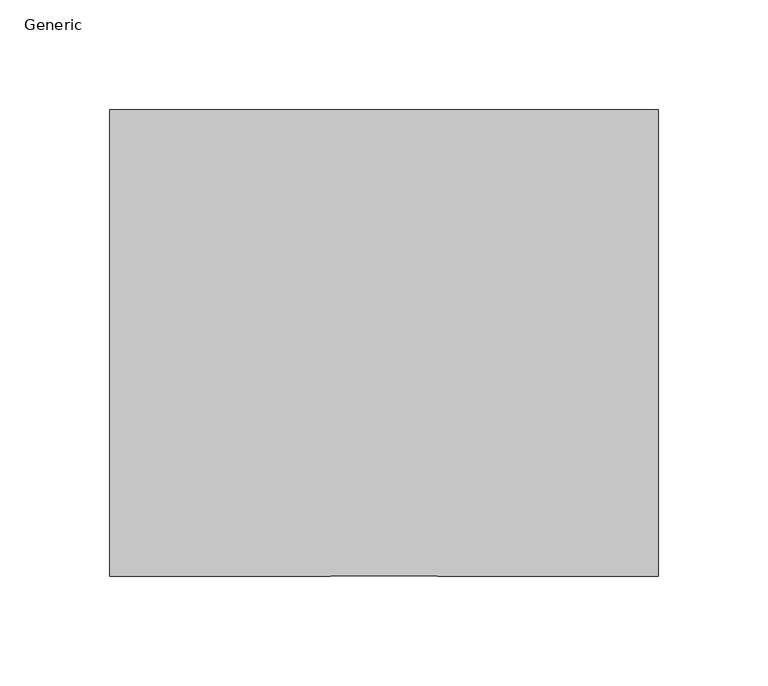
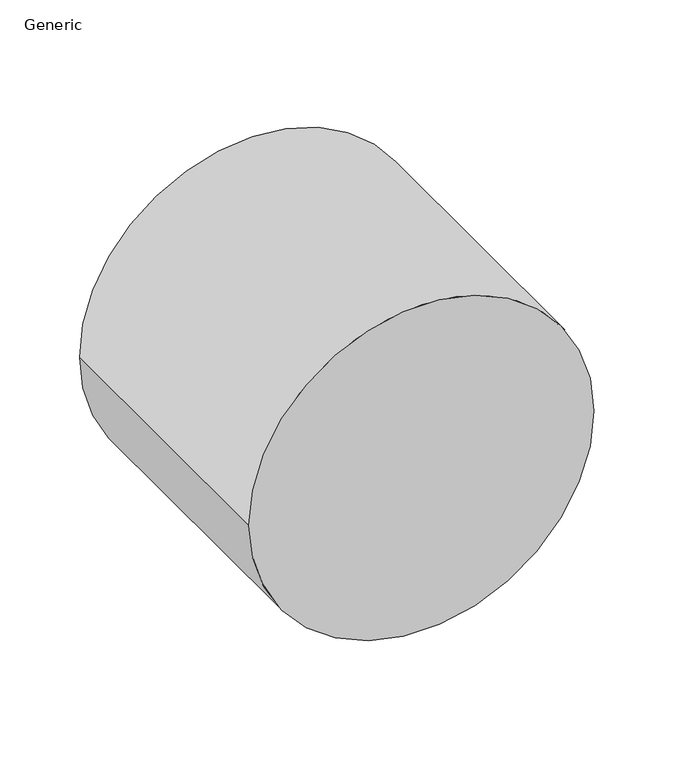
"""IFC4 building model written with IfcOpenShell, lengths in millimetres: proxy geometry, GM_Conduct : Generic."""

from ifc_helpers import new_model, si_unit, point, frame, frame_2d, origin, place, context, project, spatial, circle_curve, trimmed, segment, composite_curve, outline, extrude, source, transform, mapped, element, save


def generic_a8033e50(model_context):
    return source(origin(), model_context, "Body", "SweptSolid", [
        extrude(outline(composite_curve([segment(trimmed(circle_curve(frame_2d((82.5, 0.0)), 125.0), [point((82.5, 125.0))], [point((82.5, -125.0))], False, "CARTESIAN"), True, "CONTINUOUS"), segment(trimmed(circle_curve(frame_2d((82.5, 0.0)), 125.0), [point((82.5, -125.0))], [point((82.5, 125.0))], False, "CARTESIAN"), True, "CONTINUOUS")], self_intersect=False)), frame((0.0, 0.0, 0.0), z_axis=(0.0, 1.0, 0.0), x_axis=(0.0, 0.0, 1.0)), (0.0, 0.0, 1.0), 212.5),
    ])


if __name__ == "__main__":
    model = new_model("IFC4")
    model_context = context("Model", 3, world=origin())
    ifc_project = project(units=[si_unit("LENGTHUNIT", "METRE", prefix="MILLI")], contexts=[model_context])
    site = spatial("IfcSite", under=ifc_project)
    building = spatial("IfcBuilding", under=site)
    placement = place(None, origin())
    generic_shape = generic_a8033e50(model_context)
    element("IfcBuildingElementProxy", 1, Name="GM_Conduct : Generic", ObjectType="GM_Conduct : Generic", at=placement, inside=building, context=model_context, shape_type="MappedRepresentation", body=[
        mapped(generic_shape, transform((0.0, 0.0, 0.0), x_axis=(1.0, 0.0, 0.0), y_axis=(0.0, 1.0, 0.0), z_axis=(0.0, 0.0, 1.0))),
    ])
    save(model, "model.ifc")
